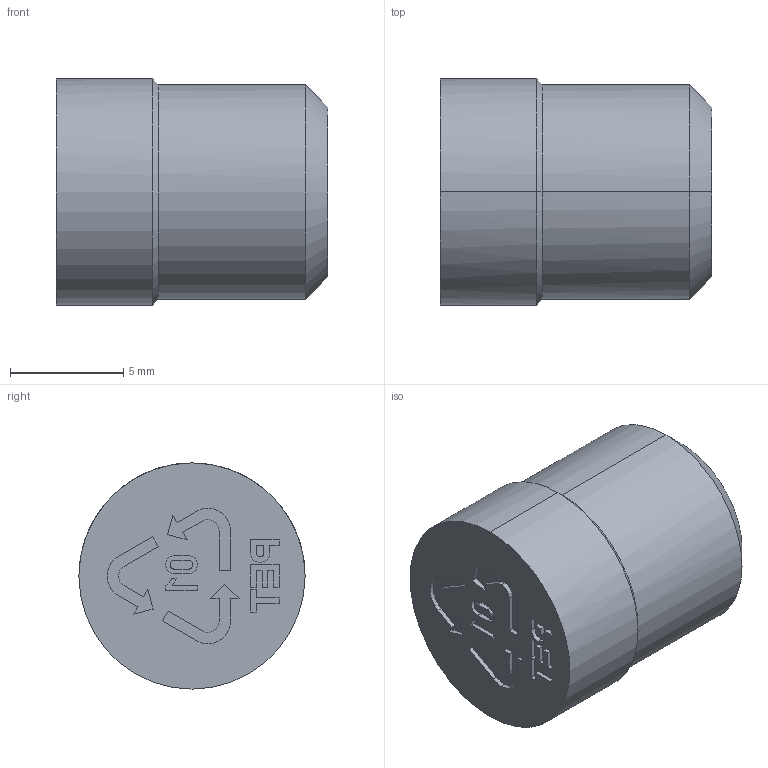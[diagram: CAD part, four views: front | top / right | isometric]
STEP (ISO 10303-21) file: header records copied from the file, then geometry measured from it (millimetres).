
FILE_DESCRIPTION(('CATIA V5 STEP Exchange'),'2;1');
FILE_NAME('C:\Users\Utente\Desktop\IO LAVORO\3D X SITO CF\X SITO\PLASTICA\CFMR\MSO110.stp','2021-03-26T13:42:27+00:00',('none'),('none'),'CATIA Version 5 Release 20 GA (IN-10)','CATIA V5 STEP AP203','none');
FILE_SCHEMA(('CONFIG_CONTROL_DESIGN'));
Length unit declared in the file: millimetre
Products named in the file (1): MSO110
Bounding box: 12 x 10 x 10 mm (x, y, z)
Volume: 811 mm3; surface area: 576.8 mm2
Topology: 1 solids, 1 shells, 110 faces, 300 edges, 201 vertices
Faces by surface type: plane 76, cylinder 26, cone 8
Entity records: 3513 total; most frequent: CARTESIAN_POINT 709, ORIENTED_EDGE 596, DIRECTION 505, EDGE_CURVE 298, VECTOR 226, LINE 226, VERTEX_POINT 201, AXIS2_PLACEMENT_3D 170
